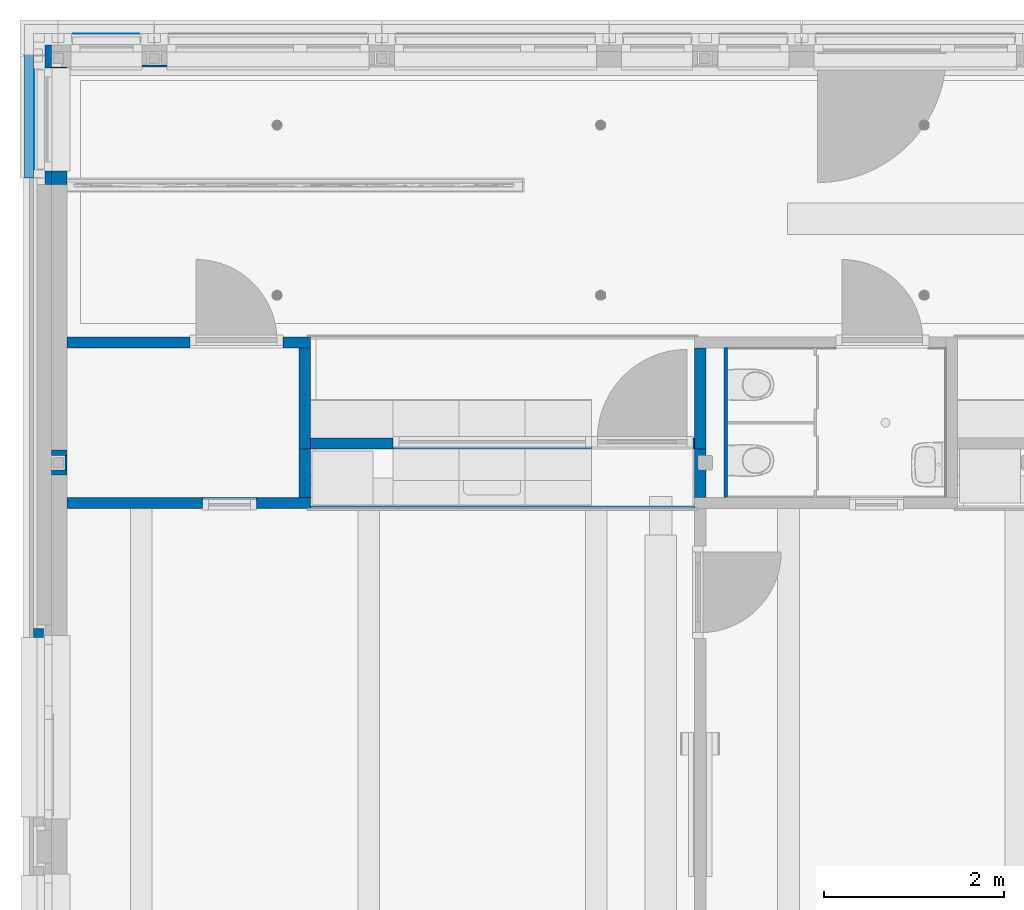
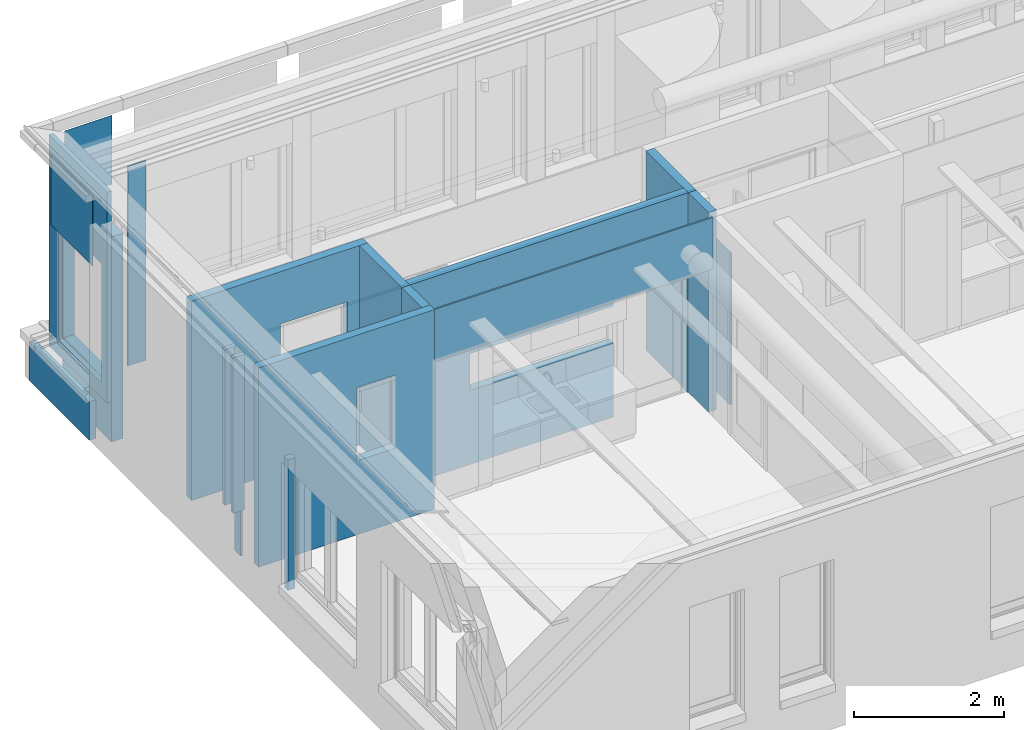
# One storey, part 45 of 128: 20 walls, 6 openings.
"""IFC2X3 building model written with IfcOpenShell, lengths in millimetres."""

from ifc_helpers import new_model, entity, si_unit, converted_unit, derived_unit, direction, frame, frame_2d, origin, origin_2d_with_axis, place, context, subcontext, project, spatial, polyline, rectangle, extrude, clip, bounded_halfspace, material, layer, layer_set, layer_usage, type_object, element, save


model = new_model("IFC2X3")

# Units and contexts
model_context = context("Model", 3, precision=0.01, world=origin(), true_north=direction((6.123031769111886e-17, 1.0)))
body_context = subcontext(model_context, "Body", "Model", "MODEL_VIEW")
ifc_project = project(units=[si_unit("LENGTHUNIT", "METRE", prefix="MILLI"), si_unit("AREAUNIT", "SQUARE_METRE"), si_unit("VOLUMEUNIT", "CUBIC_METRE"), converted_unit("PLANEANGLEUNIT", "DEGREE", entity("IfcRatioMeasure", 0.017453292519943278), si_unit("PLANEANGLEUNIT", "RADIAN"), dimensions=[0, 0, 0, 0, 0, 0, 0]), si_unit("MASSUNIT", "GRAM", prefix="KILO"), derived_unit("MASSDENSITYUNIT", [(si_unit("MASSUNIT", "GRAM", prefix="KILO"), 1), (si_unit("LENGTHUNIT", "METRE"), -3)]), derived_unit("IONCONCENTRATIONUNIT", [(si_unit("MASSUNIT", "GRAM", prefix="KILO"), 1), (si_unit("LENGTHUNIT", "METRE"), -3)]), derived_unit("MOMENTOFINERTIAUNIT", [(si_unit("LENGTHUNIT", "METRE"), 4)]), si_unit("TIMEUNIT", "SECOND"), si_unit("FREQUENCYUNIT", "HERTZ"), si_unit("THERMODYNAMICTEMPERATUREUNIT", "DEGREE_CELSIUS"), derived_unit("THERMALTRANSMITTANCEUNIT", [(si_unit("MASSUNIT", "GRAM", prefix="KILO"), 1), (si_unit("THERMODYNAMICTEMPERATUREUNIT", "KELVIN"), -1), (si_unit("TIMEUNIT", "SECOND"), -3)]), derived_unit("THERMALCONDUCTANCEUNIT", [(si_unit("MASSUNIT", "GRAM", prefix="KILO"), 1), (si_unit("THERMODYNAMICTEMPERATUREUNIT", "KELVIN"), -1), (si_unit("TIMEUNIT", "SECOND"), -3), (si_unit("LENGTHUNIT", "METRE"), 1)]), derived_unit("VOLUMETRICFLOWRATEUNIT", [(si_unit("LENGTHUNIT", "METRE"), 3), (si_unit("TIMEUNIT", "SECOND"), -1)]), derived_unit("MASSFLOWRATEUNIT", [(si_unit("MASSUNIT", "GRAM", prefix="KILO"), 1), (si_unit("TIMEUNIT", "SECOND"), -1)]), derived_unit("ROTATIONALFREQUENCYUNIT", [(si_unit("TIMEUNIT", "SECOND"), -1)]), si_unit("ELECTRICCURRENTUNIT", "AMPERE"), si_unit("ELECTRICVOLTAGEUNIT", "VOLT"), si_unit("POWERUNIT", "WATT"), si_unit("FORCEUNIT", "NEWTON", prefix="KILO"), si_unit("ILLUMINANCEUNIT", "LUX"), si_unit("LUMINOUSFLUXUNIT", "LUMEN"), si_unit("LUMINOUSINTENSITYUNIT", "CANDELA"), derived_unit("USERDEFINED", [(si_unit("MASSUNIT", "GRAM", prefix="KILO"), -1), (si_unit("LENGTHUNIT", "METRE"), -2), (si_unit("TIMEUNIT", "SECOND"), 3), (si_unit("LUMINOUSFLUXUNIT", "LUMEN"), 1)]), derived_unit("USERDEFINED", [(si_unit("MASSUNIT", "GRAM", prefix="KILO"), 1), (si_unit("TIMEUNIT", "SECOND"), -3), (si_unit("LENGTHUNIT", "METRE"), 3), (si_unit("ELECTRICCURRENTUNIT", "AMPERE"), -2)]), derived_unit("SOUNDPOWERUNIT", [(si_unit("MASSUNIT", "GRAM", prefix="KILO"), 1), (si_unit("TIMEUNIT", "SECOND"), -3), (si_unit("LENGTHUNIT", "METRE"), 2)]), derived_unit("SOUNDPRESSUREUNIT", [(si_unit("MASSUNIT", "GRAM", prefix="KILO"), 1), (si_unit("LENGTHUNIT", "METRE"), -1), (si_unit("TIMEUNIT", "SECOND"), -2)]), derived_unit("LINEARVELOCITYUNIT", [(si_unit("LENGTHUNIT", "METRE"), 1), (si_unit("TIMEUNIT", "SECOND"), -1)]), si_unit("PRESSUREUNIT", "PASCAL"), derived_unit("USERDEFINED", [(si_unit("MASSUNIT", "GRAM", prefix="KILO"), 1), (si_unit("LENGTHUNIT", "METRE"), -2), (si_unit("TIMEUNIT", "SECOND"), -2)]), derived_unit("LINEARFORCEUNIT", [(si_unit("MASSUNIT", "GRAM", prefix="KILO"), 1), (si_unit("TIMEUNIT", "SECOND"), -2)]), derived_unit("PLANARFORCEUNIT", [(si_unit("MASSUNIT", "GRAM", prefix="KILO"), 1), (si_unit("LENGTHUNIT", "METRE"), -1), (si_unit("TIMEUNIT", "SECOND"), -2)]), derived_unit("SPECIFICHEATCAPACITYUNIT", [(si_unit("THERMODYNAMICTEMPERATUREUNIT", "KELVIN"), -1), (si_unit("LENGTHUNIT", "METRE"), 2), (si_unit("TIMEUNIT", "SECOND"), -2)]), derived_unit("HEATINGVALUEUNIT", [(si_unit("LENGTHUNIT", "METRE"), 2), (si_unit("TIMEUNIT", "SECOND"), -2)]), derived_unit("VAPORPERMEABILITYUNIT", [(si_unit("LENGTHUNIT", "METRE"), -1), (si_unit("TIMEUNIT", "SECOND"), 1)]), derived_unit("DYNAMICVISCOSITYUNIT", [(si_unit("MASSUNIT", "GRAM", prefix="KILO"), 1), (si_unit("TIMEUNIT", "SECOND"), -1), (si_unit("LENGTHUNIT", "METRE"), -1)]), derived_unit("THERMALEXPANSIONCOEFFICIENTUNIT", [(si_unit("THERMODYNAMICTEMPERATUREUNIT", "KELVIN"), -1)]), derived_unit("MODULUSOFELASTICITYUNIT", [(si_unit("MASSUNIT", "GRAM", prefix="KILO"), 1), (si_unit("LENGTHUNIT", "METRE"), -1), (si_unit("TIMEUNIT", "SECOND"), -2)]), derived_unit("ISOTHERMALMOISTURECAPACITYUNIT", [(si_unit("LENGTHUNIT", "METRE"), 3), (si_unit("MASSUNIT", "GRAM", prefix="KILO"), -1)]), derived_unit("MOISTUREDIFFUSIVITYUNIT", [(si_unit("TIMEUNIT", "SECOND"), -1), (si_unit("LENGTHUNIT", "METRE"), 2)])], contexts=[model_context])

# Site, building, storey
site_placement = place(None, frame((0.0, 300.0, 0.0)))
site = spatial("IfcSite", under=ifc_project, at=site_placement, Name="<Kadastrale nummers>", CompositionType="ELEMENT")
building_placement = place(site_placement, origin())
building = spatial("IfcBuilding", under=site, at=building_placement, CompositionType="ELEMENT")
storey_placement = place(building_placement, frame((0.0, 0.0, 3560.0000331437)))
storey = spatial("IfcBuildingStorey", under=building, at=storey_placement, Name="01 eerste verdieping", CompositionType="ELEMENT", Elevation=3560.0000331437)

# Walls
ifc_material_1 = material(Name="ISR_Metselwerk")
ifc_layer_1 = layer(ifc_material_1, 100.0)
ifc_layer_set_1 = layer_set([ifc_layer_1], Name="Basic Wall:21_DAT_metselwerk_100")
ifc_layer_usage_1 = layer_usage(ifc_layer_set_1, "AXIS2", "NEGATIVE", 50.0)
wall_type_1 = type_object("IfcWallType", Name="Basic Wall:21_DAT_metselwerk_100", PredefinedType="STANDARD", material=ifc_layer_set_1)
wall_1_placement = place(storey_placement, frame((2675.0, 48465.0, 90.00000187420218), z_axis=(0.0, 0.0, 1.0), x_axis=(0.0, 1.0, 0.0)))
element("IfcWallStandardCase", 1, at=wall_1_placement, inside=storey, type_object=wall_type_1, material=ifc_layer_usage_1, Name="Basic Wall:21_DAT_metselwerk_100", ObjectType="Basic Wall:21_DAT_metselwerk_100", context=body_context, shape_type="Clipping", body=[
    clip(extrude(rectangle(XDim=1609.999999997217, YDim=100.0, at=frame_2d((804.9999999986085, -1.4566126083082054e-13), x_axis=(-1.0, 0.0))), origin(), (0.0, 0.0, 1.0), 625.0000000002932), bounded_halfspace(frame((0.0, -50.0, 0.0), z_axis=(-1.0, 0.0, 0.0), x_axis=(0.0, -1.0, 0.0)), False, frame((0.0, -50.0, 0.0), z_axis=(-1.0, 0.0, 0.0), x_axis=(0.0, -1.0, 0.0)), polyline([(0.0, 0.0), (0.0, 625.0), (-100.0, 625.0), (-100.0, 0.0), (0.0, 0.0)]))),
])
ifc_layer_usage_2 = layer_usage(ifc_layer_set_1, "AXIS2", "POSITIVE", -50.0)
wall_2_placement = place(storey_placement, frame((2725.0, 43405.0, 715.0000018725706)))
element("IfcWallStandardCase", 2, at=wall_2_placement, inside=storey, type_object=wall_type_1, material=ifc_layer_usage_2, Name="Basic Wall:21_DAT_metselwerk_100", ObjectType="Basic Wall:21_DAT_metselwerk_100", context=body_context, shape_type="SweptSolid", body=[
    extrude(rectangle(XDim=109.99999999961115, YDim=99.99999999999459, at=frame_2d((54.999999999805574, -7.993605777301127e-13), x_axis=(-1.0, 0.0))), origin(), (0.0, 0.0, 1.0), 2125.0000000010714),
])

# Wall, opening
ifc_material_2 = material(Name="ISR_Gips")
ifc_layer_2 = layer(ifc_material_2, 1.0)
ifc_material_3 = material(Name="ISR_Binnenwand")
ifc_layer_3 = layer(ifc_material_3, 123.0)
ifc_layer_4 = layer(ifc_material_2, 1.0)
ifc_layer_set_2 = layer_set([ifc_layer_2, ifc_layer_3, ifc_layer_4], Name="Basic Wall:22_DAT_binnenwand_125")
ifc_layer_usage_3 = layer_usage(ifc_layer_set_2, "AXIS2", "NEGATIVE", 62.50000000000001)
wall_type_2 = type_object("IfcWallType", Name="Basic Wall:22_DAT_binnenwand_125", PredefinedType="STANDARD", material=ifc_layer_set_2)
wall_3_placement = place(storey_placement, frame((3100.0, 44852.500000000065, 90.00000187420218)))
wall_3 = element("IfcWallStandardCase", 3, at=wall_3_placement, inside=storey, type_object=wall_type_2, material=ifc_layer_usage_3, Name="Basic Wall:22_DAT_binnenwand_125", ObjectType="Basic Wall:22_DAT_binnenwand_125", context=body_context, shape_type="SweptSolid", body=[
    extrude(rectangle(XDim=2705.00000000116, YDim=125.00000000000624, at=frame_2d((1352.50000000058, 0.0), x_axis=(-1.0, 0.0))), origin(), (0.0, 0.0, 1.0), 3239.9999999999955),
])
opening_1_placement = place(wall_3_placement, origin())
element("IfcOpeningElement", 4, at=opening_1_placement, cuts=wall_3, Name="Basic Wall:22_DAT_binnenwand_125", ObjectType="Opening", context=body_context, shape_type="SweptSolid", body=[
    extrude(rectangle(XDim=1190.0000000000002, YDim=600.0, at=frame_2d((0.0, 0.0), x_axis=(0.0, 1.0))), frame((1805.0, -214.89999999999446, 1795.0), z_axis=(0.0, 1.0, 0.0), x_axis=(-1.0, 0.0, 0.0)), (0.0, 0.0, 1.0), 429.79999999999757),
])

wall_4_placement = place(storey_placement, frame((5807.500000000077, 46637.50000000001, 90.00000187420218), z_axis=(0.0, 0.0, 1.0), x_axis=(-1.0, 0.0, 0.0)))
wall_4 = element("IfcWallStandardCase", 5, at=wall_4_placement, inside=storey, type_object=wall_type_2, material=ifc_layer_usage_3, Name="Basic Wall:22_DAT_binnenwand_125", ObjectType="Basic Wall:22_DAT_binnenwand_125", context=body_context, shape_type="SweptSolid", body=[
    extrude(rectangle(XDim=2707.500000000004, YDim=125.00000000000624, at=frame_2d((1353.750000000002, -2.0392576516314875e-12), x_axis=(-1.0, 0.0))), origin(), (0.0, 0.0, 1.0), 3239.9999999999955),
])
opening_2_placement = place(wall_4_placement, origin())
element("IfcOpeningElement", 6, at=opening_2_placement, cuts=wall_4, Name="Basic Wall:22_DAT_binnenwand_125", ObjectType="Opening", context=body_context, shape_type="SweptSolid", body=[
    extrude(rectangle(XDim=2390.0000000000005, YDim=1034.000000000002, at=frame_2d((0.0, -5.684341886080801e-13), x_axis=(1.0, 0.0))), frame((824.5000000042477, -214.89999999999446, 1195.0), z_axis=(0.0, 1.0, 0.0), x_axis=(0.0, 0.0, 1.0)), (0.0, 0.0, 1.0), 429.79999999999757),
])

# Walls
ifc_layer_5 = layer(ifc_material_3, 113.0)
ifc_material_4 = material(Name="ISR_HPL Kleur hout")
ifc_layer_6 = layer(ifc_material_4, 12.0)
ifc_layer_set_3 = layer_set([ifc_layer_5, ifc_layer_6], Name="Basic Wall:22_DAT_binnenwand_125 HPL")
ifc_layer_usage_4 = layer_usage(ifc_layer_set_3, "AXIS2", "NEGATIVE", 62.49999999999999)
wall_type_3 = type_object("IfcWallType", Name="Basic Wall:22_DAT_binnenwand_125 HPL", PredefinedType="STANDARD", material=ifc_layer_set_3)
wall_5_placement = place(storey_placement, frame((10142.500000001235, 46575.0, 90.00000187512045), z_axis=(0.0, 0.0, 1.0), x_axis=(0.0, -1.0, 0.0)))
element("IfcWallStandardCase", 7, at=wall_5_placement, inside=storey, type_object=wall_type_3, material=ifc_layer_usage_4, Name="Basic Wall:22_DAT_binnenwand_125 HPL", ObjectType="Basic Wall:22_DAT_binnenwand_125 HPL", context=body_context, shape_type="SweptSolid", body=[
    extrude(rectangle(XDim=1124.9999999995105, YDim=125.0000000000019, at=frame_2d((562.4999999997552, -2.0250467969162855e-13), x_axis=(-1.0, 0.0))), origin(), (0.0, 0.0, 1.0), 3240.0000290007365),
])
wall_6_placement = place(storey_placement, frame((5742.500000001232, 44915.0, 90.00000187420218), z_axis=(0.0, 0.0, 1.0), x_axis=(0.0, 1.0, 0.0)))
element("IfcWallStandardCase", 8, at=wall_6_placement, inside=storey, type_object=wall_type_3, material=ifc_layer_usage_4, Name="Basic Wall:22_DAT_binnenwand_125 HPL", ObjectType="Basic Wall:22_DAT_binnenwand_125 HPL", context=body_context, shape_type="SweptSolid", body=[
    extrude(rectangle(XDim=534.9999999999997, YDim=124.99999999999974, at=frame_2d((267.49999999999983, -1.5276668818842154e-13), x_axis=(-1.0, 0.0))), origin(), (0.0, 0.0, 1.0), 3239.9999999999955),
])
wall_7_placement = place(storey_placement, frame((10142.500000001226, 45450.0, 90.00000187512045), z_axis=(0.0, 0.0, 1.0), x_axis=(0.0, -1.0, 0.0)))
element("IfcWallStandardCase", 9, at=wall_7_placement, inside=storey, type_object=wall_type_3, material=ifc_layer_usage_4, Name="Basic Wall:22_DAT_binnenwand_125 HPL", ObjectType="Basic Wall:22_DAT_binnenwand_125 HPL", context=body_context, shape_type="SweptSolid", body=[
    extrude(rectangle(XDim=535.0000000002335, YDim=125.0000000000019, at=frame_2d((267.50000000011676, -2.0250467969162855e-13), x_axis=(-1.0, 0.0))), origin(), (0.0, 0.0, 1.0), 3240.0000290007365),
])
wall_8_placement = place(storey_placement, frame((5742.500000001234, 45450.0, 90.00000187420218), z_axis=(0.0, 0.0, 1.0), x_axis=(0.0, 1.0, 0.0)))
element("IfcWallStandardCase", 10, at=wall_8_placement, inside=storey, type_object=wall_type_3, material=ifc_layer_usage_4, Name="Basic Wall:22_DAT_binnenwand_125 HPL", ObjectType="Basic Wall:22_DAT_binnenwand_125 HPL", context=body_context, shape_type="SweptSolid", body=[
    extrude(rectangle(XDim=1124.9999999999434, YDim=124.99999999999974, at=frame_2d((562.4999999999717, 2.7711166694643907e-13), x_axis=(-1.0, 0.0))), origin(), (0.0, 0.0, 1.0), 3239.9999999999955),
])

# Wall, openings
ifc_layer_7 = layer(ifc_material_4, 12.0)
ifc_layer_8 = layer(ifc_material_3, 101.0)
ifc_layer_9 = layer(ifc_material_4, 12.0)
ifc_layer_set_4 = layer_set([ifc_layer_7, ifc_layer_8, ifc_layer_9], Name="Basic Wall:22_DAT_binnenwand_125 HPL dubbel")
ifc_layer_usage_5 = layer_usage(ifc_layer_set_4, "AXIS2", "NEGATIVE", 62.50000000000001)
wall_type_4 = type_object("IfcWallType", Name="Basic Wall:22_DAT_binnenwand_125 HPL dubbel", PredefinedType="STANDARD", material=ifc_layer_set_4)
wall_9_placement = place(storey_placement, frame((10080.0, 45512.500000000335, 90.00000187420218), z_axis=(0.0, 0.0, 1.0), x_axis=(-1.0, 0.0, 0.0)))
wall_9 = element("IfcWallStandardCase", 11, at=wall_9_placement, inside=storey, type_object=wall_type_4, material=ifc_layer_usage_5, Name="Basic Wall:22_DAT_binnenwand_125 HPL dubbel", ObjectType="Basic Wall:22_DAT_binnenwand_125 HPL dubbel", context=body_context, shape_type="SweptSolid", body=[
    extrude(rectangle(XDim=4274.999999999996, YDim=125.00000000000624, at=frame_2d((2137.499999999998, 0.0), x_axis=(-1.0, 0.0))), origin(), (0.0, 0.0, 1.0), 3239.9999999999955),
])
opening_3_placement = place(wall_9_placement, origin())
element("IfcOpeningElement", 12, at=opening_3_placement, cuts=wall_9, Name="Basic Wall:22_DAT_binnenwand_125 HPL dubbel", ObjectType="Opening", context=body_context, shape_type="SweptSolid", body=[
    extrude(rectangle(XDim=2390.0000000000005, YDim=1133.9999999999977, at=frame_2d((0.0, 0.0), x_axis=(0.0, 1.0))), frame((582.0, -214.89999999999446, 1195.0), z_axis=(0.0, 1.0, 0.0), x_axis=(-1.0, 0.0, 0.0)), (0.0, 0.0, 1.0), 429.79999999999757),
])
opening_4_placement = place(wall_9_placement, origin())
element("IfcOpeningElement", 13, at=opening_4_placement, cuts=wall_9, Name="Basic Wall:22_DAT_binnenwand_125 HPL dubbel", ObjectType="Opening", context=body_context, shape_type="SweptSolid", body=[
    extrude(rectangle(XDim=600.0000000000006, YDim=2205.0000000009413, at=frame_2d((0.0, 7.958078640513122e-13), x_axis=(0.0, 1.0))), frame((2251.5000000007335, -214.89999999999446, 1500.0), z_axis=(0.0, 1.0, 0.0), x_axis=(-1.0, 0.0, 0.0)), (0.0, 0.0, 1.0), 429.79999999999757),
])

# Walls
ifc_layer_10 = layer(ifc_material_2, 1.0)
ifc_layer_11 = layer(ifc_material_3, 23.0)
ifc_layer_12 = layer(ifc_material_2, 1.0)
ifc_layer_set_5 = layer_set([ifc_layer_10, ifc_layer_11, ifc_layer_12], Name="Basic Wall:22_DAT_binnenwand_25")
ifc_layer_usage_6 = layer_usage(ifc_layer_set_5, "AXIS2", "POSITIVE", -12.499999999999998)
wall_type_5 = type_object("IfcWallType", Name="Basic Wall:22_DAT_binnenwand_25", PredefinedType="STANDARD", material=ifc_layer_set_5)
wall_10_placement = place(storey_placement, frame((5805.0, 44802.50000000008, 2490.000024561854)))
element("IfcWallStandardCase", 14, at=wall_10_placement, inside=storey, type_object=wall_type_5, material=ifc_layer_usage_6, Name="Basic Wall:22_DAT_binnenwand_25", ObjectType="Basic Wall:22_DAT_binnenwand_25", context=body_context, shape_type="SweptSolid", body=[
    extrude(rectangle(XDim=4275.000000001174, YDim=24.999999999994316, at=frame_2d((2137.500000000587, 6.306066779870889e-14), x_axis=(-1.0, 0.0))), origin(), (0.0, 0.0, 1.0), 839.9999773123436),
])
wall_11_placement = place(storey_placement, frame((10422.499999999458, 46575.0, 90.0000018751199), z_axis=(0.0, 0.0, 1.0), x_axis=(0.0, -1.0, 0.0)))
element("IfcWallStandardCase", 15, at=wall_11_placement, inside=storey, type_object=wall_type_5, material=ifc_layer_usage_6, Name="Basic Wall:22_DAT_binnenwand_25", ObjectType="Basic Wall:22_DAT_binnenwand_25", context=body_context, shape_type="SweptSolid", body=[
    extrude(rectangle(XDim=1659.9999999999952, YDim=24.99999999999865, at=frame_2d((829.9999999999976, -1.2612133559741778e-13), x_axis=(-1.0, 0.0))), origin(), (0.0, 0.0, 1.0), 2470.0000226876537),
])
wall_12_placement = place(storey_placement, frame((3087.5000000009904, 45380.0, 20.00000187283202), z_axis=(0.0, 0.0, 1.0), x_axis=(0.0, -1.0, 0.0)))
element("IfcWallStandardCase", 16, at=wall_12_placement, inside=storey, type_object=wall_type_5, material=ifc_layer_usage_6, Name="Basic Wall:22_DAT_binnenwand_25", ObjectType="Basic Wall:22_DAT_binnenwand_25", context=body_context, shape_type="SweptSolid", body=[
    extrude(rectangle(XDim=159.99999999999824, YDim=24.99999999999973, at=frame_2d((79.99999999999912, 1.092459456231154e-13), x_axis=(-1.0, 0.0))), origin(), (0.0, 0.0, 1.0), 3310.0000290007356),
])
wall_13_placement = place(storey_placement, frame((4210.0, 49712.50000000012, 90.00000187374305), z_axis=(0.0, 0.0, 1.0), x_axis=(-1.0, 0.0, 0.0)))
element("IfcWallStandardCase", 17, at=wall_13_placement, inside=storey, type_object=wall_type_5, material=ifc_layer_usage_6, Name="Basic Wall:22_DAT_binnenwand_25", ObjectType="Basic Wall:22_DAT_binnenwand_25", context=body_context, shape_type="SweptSolid", body=[
    extrude(rectangle(XDim=279.9999999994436, YDim=24.999999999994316, at=frame_2d((139.9999999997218, 0.0), x_axis=(-1.0, 0.0))), origin(), (0.0, 0.0, 1.0), 3240.000000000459),
])

# Wall, opening
ifc_layer_13 = layer(ifc_material_2, 1.0)
ifc_material_5 = material(Name="ISR_Kalkzandsteen")
ifc_layer_14 = layer(ifc_material_5, 173.0)
ifc_layer_15 = layer(ifc_material_2, 1.0)
ifc_layer_set_6 = layer_set([ifc_layer_13, ifc_layer_14, ifc_layer_15], Name="Basic Wall:28_DAT_kalkzandsteen_175mm")
ifc_layer_usage_7 = layer_usage(ifc_layer_set_6, "AXIS2", "POSITIVE", -87.49999999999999)
wall_type_6 = type_object("IfcWallType", Name="Basic Wall:28_DAT_kalkzandsteen_175mm", PredefinedType="STANDARD", material=ifc_layer_set_6)
wall_14_placement = place(storey_placement, frame((3012.500000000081, 49700.0, 0.0), z_axis=(0.0, 0.0, 1.0), x_axis=(0.0, -1.0, 0.0)))
wall_14 = element("IfcWallStandardCase", 18, at=wall_14_placement, inside=storey, type_object=wall_type_6, material=ifc_layer_usage_7, Name="Basic Wall:28_DAT_kalkzandsteen_175mm", ObjectType="Basic Wall:28_DAT_kalkzandsteen_175mm", context=body_context, shape_type="SweptSolid", body=[
    extrude(rectangle(XDim=1305.0000000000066, YDim=175.00000000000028, at=frame_2d((652.5000000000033, -7.105427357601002e-14), x_axis=(-1.0, 0.0))), origin(), (0.0, 0.0, 1.0), 3330.000001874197),
])
opening_5_placement = place(wall_14_placement, origin())
element("IfcOpeningElement", 19, at=opening_5_placement, cuts=wall_14, Name="Basic Wall:28_DAT_kalkzandsteen_175mm", ObjectType="Opening", context=body_context, shape_type="SweptSolid", body=[
    extrude(rectangle(XDim=1929.9999999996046, YDim=1144.9999999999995, at=frame_2d((0.0, 0.0), x_axis=(0.0, 1.0))), frame((582.4999999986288, -239.89999999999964, 1864.999966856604), z_axis=(0.0, 1.0, 0.0), x_axis=(-1.0, 0.0, 0.0)), (0.0, 0.0, 1.0), 479.7999999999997),
])

# Walls
ifc_material_6 = material(Name="STAAL_RAL 7006")
ifc_layer_16 = layer(ifc_material_6, 2.0)
ifc_layer_set_7 = layer_set([ifc_layer_16], Name="Basic Wall:21_DAT_zetwerk_2")
ifc_layer_usage_8 = layer_usage(ifc_layer_set_7, "AXIS2", "NEGATIVE", 1.000000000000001)
wall_type_7 = type_object("IfcWallType", Name="Basic Wall:21_DAT_zetwerk_2", PredefinedType="STANDARD", material=ifc_layer_set_7)
wall_15_placement = place(storey_placement, frame((3168.0, 50071.0, 2829.9999668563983)))
element("IfcWallStandardCase", 20, at=wall_15_placement, inside=storey, type_object=wall_type_7, material=ifc_layer_usage_8, Name="Basic Wall:21_DAT_zetwerk_2", ObjectType="Basic Wall:21_DAT_zetwerk_2", context=body_context, shape_type="SweptSolid", body=[
    extrude(rectangle(XDim=733.9999999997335, YDim=1.9999999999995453, at=frame_2d((366.99999999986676, 0.0), x_axis=(-1.0, 0.0))), origin(), (0.0, 0.0, 1.0), 1120.0000000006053),
])
wall_16_placement = place(storey_placement, frame((2734.0, 48565.0, 2820.0), z_axis=(0.0, 0.0, 1.0), x_axis=(0.0, 1.0, 0.0)))
element("IfcWallStandardCase", 21, at=wall_16_placement, inside=storey, type_object=wall_type_7, material=ifc_layer_usage_8, Name="Basic Wall:21_DAT_zetwerk_2", ObjectType="Basic Wall:21_DAT_zetwerk_2", context=body_context, shape_type="SweptSolid", body=[
    extrude(rectangle(XDim=1105.000000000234, YDim=1.9999999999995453, at=frame_2d((552.500000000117, 0.0), x_axis=(-1.0, 0.0))), origin(), (0.0, 0.0, 1.0), 1144.9999649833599),
])
ifc_layer_17 = layer(ifc_material_2, 12.5)
ifc_layer_18 = layer(ifc_material_2, 12.5)
ifc_material_7 = material(Name="ISR_Dak_isolatie(198)")
ifc_layer_19 = layer(ifc_material_7, 140.0)
ifc_material_8 = material(Name="ISR_Multiplex")
ifc_layer_20 = layer(ifc_material_8, 10.0)
ifc_layer_set_8 = layer_set([ifc_layer_17, ifc_layer_18, ifc_layer_19, ifc_layer_20], Name="Basic Wall:21_DAT_Hekwerk 175")
ifc_layer_usage_9 = layer_usage(ifc_layer_set_8, "AXIS2", "NEGATIVE", 87.5)
wall_type_8 = type_object("IfcWallType", Name="Basic Wall:21_DAT_Hekwerk 175", PredefinedType="STANDARD", material=ifc_layer_set_8)
wall_17_placement = place(storey_placement, frame((3012.500000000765, 45220.0, 800.0000018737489), z_axis=(0.0, 0.0, 1.0), x_axis=(0.0, -1.0, 0.0)))
element("IfcWallStandardCase", 22, at=wall_17_placement, inside=storey, type_object=wall_type_8, material=ifc_layer_usage_9, Name="Basic Wall:21_DAT_Hekwerk 175", ObjectType="Basic Wall:21_DAT_Hekwerk 175", context=body_context, shape_type="SweptSolid", body=[
    extrude(rectangle(XDim=60.00000000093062, YDim=175.00000000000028, at=frame_2d((30.00000000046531, -8.526512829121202e-14), x_axis=(-1.0, 0.0))), origin(), (0.0, 0.0, 1.0), 2530.000028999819),
])
ifc_layer_usage_10 = layer_usage(ifc_layer_set_8, "AXIS2", "POSITIVE", -87.5)
wall_18_placement = place(storey_placement, frame((3012.5000000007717, 45380.0, 800.0000018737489), z_axis=(0.0, 0.0, 1.0), x_axis=(0.0, 1.0, 0.0)))
element("IfcWallStandardCase", 23, at=wall_18_placement, inside=storey, type_object=wall_type_8, material=ifc_layer_usage_10, Name="Basic Wall:21_DAT_Hekwerk 175", ObjectType="Basic Wall:21_DAT_Hekwerk 175", context=body_context, shape_type="SweptSolid", body=[
    extrude(rectangle(XDim=59.99999999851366, YDim=175.00000000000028, at=frame_2d((29.99999999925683, 7.105427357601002e-15), x_axis=(-1.0, 0.0))), origin(), (0.0, 0.0, 1.0), 2530.000028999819),
])

# Wall, opening
ifc_material_9 = material(Name="ISR_Isolatie")
ifc_layer_21 = layer(ifc_material_9, 70.0)
ifc_layer_set_9 = layer_set([ifc_layer_21], Name="Basic Wall:21_DAT_isolatie hard_74")
ifc_layer_usage_11 = layer_usage(ifc_layer_set_9, "AXIS2", "NEGATIVE", 35.0)
wall_type_9 = type_object("IfcWallType", Name="Basic Wall:21_DAT_isolatie hard_74", PredefinedType="STANDARD", material=ifc_layer_set_9)
wall_19_placement = place(storey_placement, frame((2890.0, 48395.0, 652.5000018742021), z_axis=(0.0, 0.0, 1.0), x_axis=(0.0, 1.0, 0.0)))
wall_19 = element("IfcWallStandardCase", 24, at=wall_19_placement, inside=storey, type_object=wall_type_9, material=ifc_layer_usage_11, Name="Basic Wall:21_DAT_isolatie hard_74", ObjectType="Basic Wall:21_DAT_isolatie hard_74", context=body_context, shape_type="SweptSolid", body=[
    extrude(rectangle(XDim=1549.9999999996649, YDim=70.00000000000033, at=frame_2d((774.9999999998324, 2.1316282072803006e-14), x_axis=(-1.0, 0.0))), origin(), (0.0, 0.0, 1.0), 3424.9999649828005),
])
opening_6_placement = place(wall_19_placement, origin())
element("IfcOpeningElement", 25, at=opening_6_placement, cuts=wall_19, Name="Basic Wall:21_DAT_isolatie hard_74", ObjectType="Opening", context=body_context, shape_type="SweptSolid", body=[
    extrude(rectangle(XDim=1929.9999999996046, YDim=1144.9999999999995, at=origin_2d_with_axis()), frame((722.500000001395, -187.3999999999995, 1212.4999649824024), z_axis=(0.0, 1.0, 0.0), x_axis=(0.0, 0.0, 1.0)), (0.0, 0.0, 1.0), 374.7999999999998),
])

# Wall
ifc_material_10 = material(Name="ISR_Tegels_grijs_150x150")
ifc_layer_22 = layer(ifc_material_10, 10.0)
ifc_layer_set_10 = layer_set([ifc_layer_22], Name="Basic Wall:43_DAT_Wandtegelwerk")
ifc_layer_usage_12 = layer_usage(ifc_layer_set_10, "AXIS2", "POSITIVE", -5.0)
wall_type_10 = type_object("IfcWallType", Name="Basic Wall:43_DAT_Wandtegelwerk", PredefinedType="STANDARD", material=ifc_layer_set_10)
wall_20_placement = place(storey_placement, frame((10440.0, 44925.0, 90.00000187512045), z_axis=(0.0, 0.0, 1.0), x_axis=(0.0, 1.0, 0.0)))
element("IfcWallStandardCase", 26, at=wall_20_placement, inside=storey, type_object=wall_type_10, material=ifc_layer_usage_12, Name="Basic Wall:43_DAT_Wandtegelwerk", ObjectType="Basic Wall:43_DAT_Wandtegelwerk", context=body_context, shape_type="SweptSolid", body=[
    extrude(rectangle(XDim=1649.9999999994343, YDim=10.000000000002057, at=frame_2d((824.9999999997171, -3.5926817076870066e-13), x_axis=(-1.0, 0.0))), origin(), (0.0, 0.0, 1.0), 2450.0000226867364),
])

save(model, "model.ifc")
